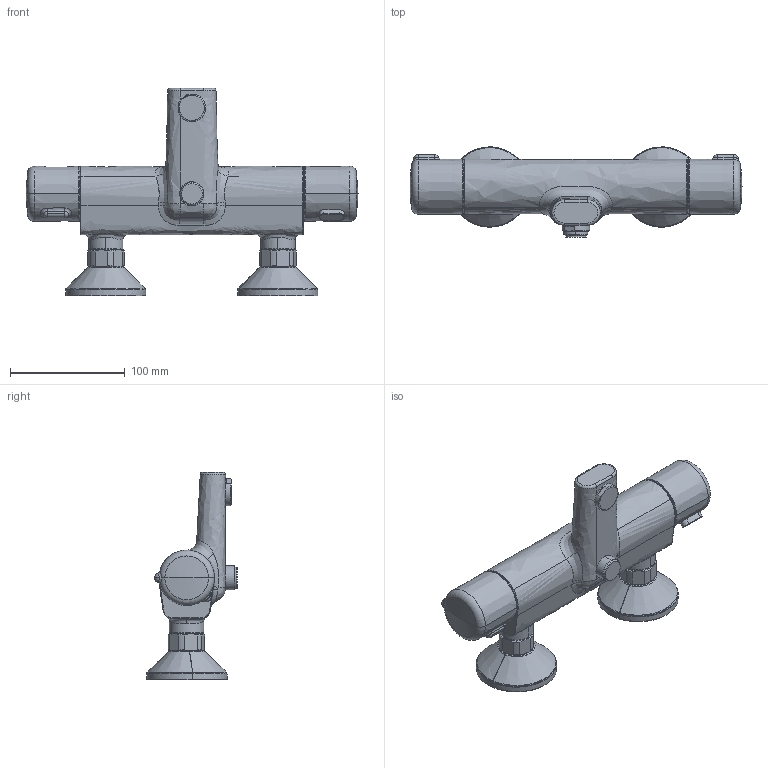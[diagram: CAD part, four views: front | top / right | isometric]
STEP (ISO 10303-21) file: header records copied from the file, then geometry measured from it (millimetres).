
FILE_DESCRIPTION (( 'STEP AP203' ), '1' );
FILE_NAME ('7462G-33(2020).STEP', '2020-11-30T09:35:58', ( '' ), ( '' ), 'SwSTEP 2.0', 'SolidWorks 2016', '' );
FILE_SCHEMA (( 'CONFIG_CONTROL_DESIGN' ));
Length unit declared in the file: millimetre
Products named in the file (1): 7462G-33(2020)
Bounding box: 289.57 x 78.78 x 180.82 mm (x, y, z)
Volume: 774297.1 mm3; surface area: 98691.3 mm2
Topology: 1 solids, 3 shells, 241 faces, 577 edges, 359 vertices
Faces by surface type: bspline 58, cylinder 55, plane 50, cone 46, torus 18, sphere 14
Entity records: 16264 total; most frequent: CARTESIAN_POINT 11081, ORIENTED_EDGE 1146, DIRECTION 959, EDGE_CURVE 573, AXIS2_PLACEMENT_3D 422, VERTEX_POINT 357, EDGE_LOOP 260, ADVANCED_FACE 241
